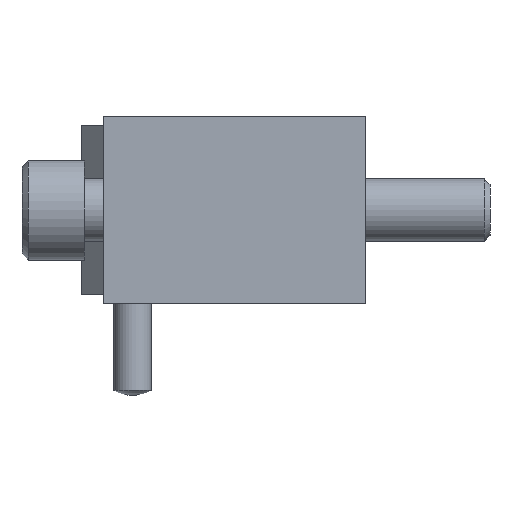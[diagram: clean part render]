
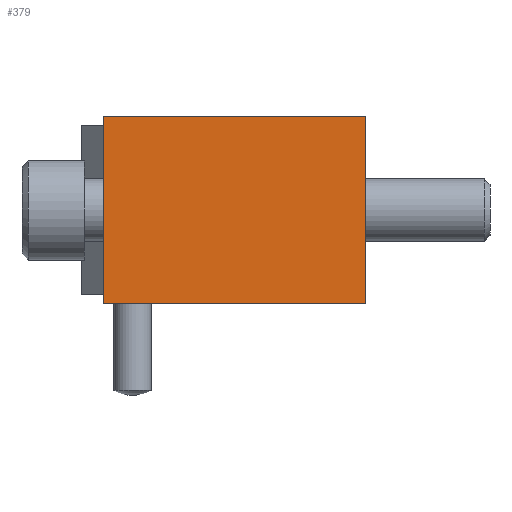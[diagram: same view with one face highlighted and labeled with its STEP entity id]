
A CAD part, left-side view. The second image highlights one B-rep face of the part: STEP entity #379.
In plain terms, the highlighted planar face has unit normal (-1, 0, 0).
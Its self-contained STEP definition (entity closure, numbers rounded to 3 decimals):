
#379 = ADVANCED_FACE( '', ( #714 ), #715, .F. );
#714 = FACE_OUTER_BOUND( '', #1061, .T. );
#715 = PLANE( '', #1062 );
#1061 = EDGE_LOOP( '', ( #1626, #1627, #1628, #1629 ) );
#1062 = AXIS2_PLACEMENT_3D( '', #1630, #1631, #1632 );
#1626 = ORIENTED_EDGE( '', *, *, #2099, .T. );
#1627 = ORIENTED_EDGE( '', *, *, #2094, .F. );
#1628 = ORIENTED_EDGE( '', *, *, #2138, .F. );
#1629 = ORIENTED_EDGE( '', *, *, #2165, .T. );
#1630 = CARTESIAN_POINT( '', ( 0., 42., -15. ) );
#1631 = DIRECTION( '', ( 1., 0., 0. ) );
#1632 = DIRECTION( '', ( 0., 0., -1. ) );
#2094 = EDGE_CURVE( '', #2465, #2460, #2467, .T. );
#2099 = EDGE_CURVE( '', #2474, #2460, #2475, .T. );
#2138 = EDGE_CURVE( '', #2531, #2465, #2532, .T. );
#2165 = EDGE_CURVE( '', #2531, #2474, #2567, .T. );
#2460 = VERTEX_POINT( '', #2949 );
#2465 = VERTEX_POINT( '', #2956 );
#2467 = LINE( '', #2959, #2960 );
#2474 = VERTEX_POINT( '', #2967 );
#2475 = LINE( '', #2968, #2969 );
#2531 = VERTEX_POINT( '', #3045 );
#2532 = LINE( '', #3046, #3047 );
#2567 = LINE( '', #3146, #3147 );
#2949 = CARTESIAN_POINT( '', ( 0., 0., 15. ) );
#2956 = CARTESIAN_POINT( '', ( 0., 42., 15. ) );
#2959 = CARTESIAN_POINT( '', ( 0., 42., 15. ) );
#2960 = VECTOR( '', #3399, 1000. );
#2967 = CARTESIAN_POINT( '', ( 0., 0., -15. ) );
#2968 = CARTESIAN_POINT( '', ( 0., 0., -15. ) );
#2969 = VECTOR( '', #3406, 1000. );
#3045 = CARTESIAN_POINT( '', ( 0., 42., -15. ) );
#3046 = CARTESIAN_POINT( '', ( 0., 42., -15. ) );
#3047 = VECTOR( '', #3445, 1000. );
#3146 = CARTESIAN_POINT( '', ( 0., 42., -15. ) );
#3147 = VECTOR( '', #3471, 1000. );
#3399 = DIRECTION( '', ( 0., -1., 0. ) );
#3406 = DIRECTION( '', ( 0., 0., 1. ) );
#3445 = DIRECTION( '', ( 0., 0., 1. ) );
#3471 = DIRECTION( '', ( 0., -1., 0. ) );
